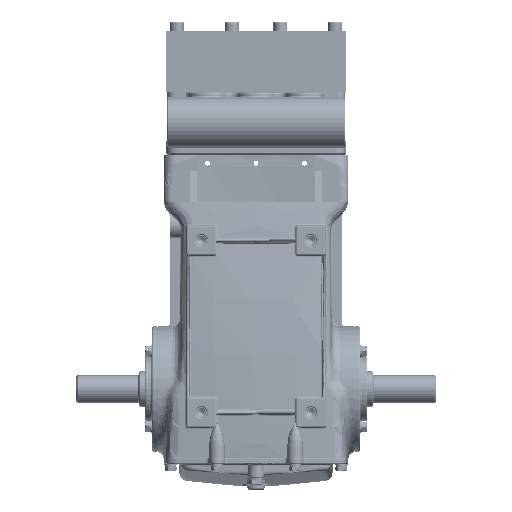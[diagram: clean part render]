
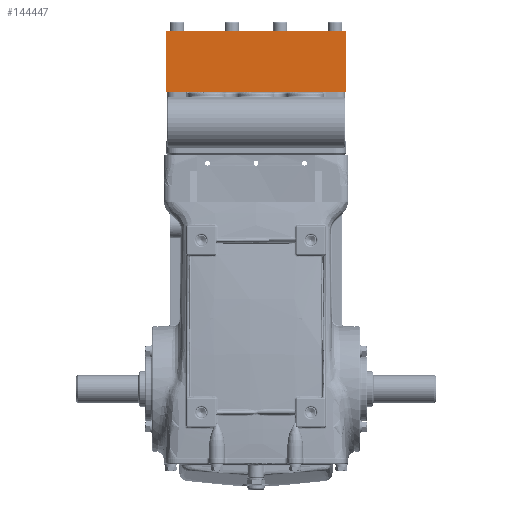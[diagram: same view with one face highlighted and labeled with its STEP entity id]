
A CAD part, front view. The second image highlights one B-rep face of the part: STEP entity #144447.
In plain terms, the highlighted planar face has unit normal (0, -1, 0).
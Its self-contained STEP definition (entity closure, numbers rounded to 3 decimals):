
#7578 = VERTEX_POINT ( 'NONE', #59951 ) ;
#7587 = VERTEX_POINT ( 'NONE', #59960 ) ;
#7643 = VERTEX_POINT ( 'NONE', #57588 ) ;
#20022 = FACE_OUTER_BOUND ( 'NONE', #27867, .T. ) ;
#20038 = AXIS2_PLACEMENT_3D ( 'NONE', #165394, #165395, #165396 ) ;
#27867 = EDGE_LOOP ( 'NONE', ( #84769, #84778, #84766, #84774, #84726, #84725, #84722, #84719, #84718, #84714 ) ) ;
#29304 = VERTEX_POINT ( 'NONE', #174169 ) ;
#43476 = VECTOR ( 'NONE', #186797, 1000. ) ;
#43480 = VECTOR ( 'NONE', #186800, 1000. ) ;
#43521 = VECTOR ( 'NONE', #186830, 1000. ) ;
#43534 = VECTOR ( 'NONE', #186839, 1000. ) ;
#43565 = VECTOR ( 'NONE', #186881, 1000. ) ;
#43578 = VECTOR ( 'NONE', #186909, 1000. ) ;
#43583 = VECTOR ( 'NONE', #186912, 1000. ) ;
#57588 = CARTESIAN_POINT ( 'NONE',  ( 115., -75.712, 378.95 ) ) ;
#59951 = CARTESIAN_POINT ( 'NONE',  ( -115., -75.712, 378.95 ) ) ;
#59960 = CARTESIAN_POINT ( 'NONE',  ( 56.834, -75.712, 378.95 ) ) ;
#84714 = ORIENTED_EDGE ( 'NONE', *, *, #166385, .T. ) ;
#84718 = ORIENTED_EDGE ( 'NONE', *, *, #166384, .F. ) ;
#84719 = ORIENTED_EDGE ( 'NONE', *, *, #94478, .F. ) ;
#84722 = ORIENTED_EDGE ( 'NONE', *, *, #166380, .F. ) ;
#84725 = ORIENTED_EDGE ( 'NONE', *, *, #94483, .F. ) ;
#84726 = ORIENTED_EDGE ( 'NONE', *, *, #166370, .F. ) ;
#84766 = ORIENTED_EDGE ( 'NONE', *, *, #166367, .F. ) ;
#84769 = ORIENTED_EDGE ( 'NONE', *, *, #166357, .T. ) ;
#84774 = ORIENTED_EDGE ( 'NONE', *, *, #94487, .F. ) ;
#84778 = ORIENTED_EDGE ( 'NONE', *, *, #166356, .F. ) ;
#86716 = VERTEX_POINT ( 'NONE', #116697 ) ;
#86776 = VERTEX_POINT ( 'NONE', #116731 ) ;
#86847 = VERTEX_POINT ( 'NONE', #116771 ) ;
#94478 = EDGE_CURVE ( 'NONE', #134559, #7587, #181748, .T. ) ;
#94483 = EDGE_CURVE ( 'NONE', #86776, #86847, #181754, .T. ) ;
#94487 = EDGE_CURVE ( 'NONE', #29304, #191582, #181760, .T. ) ;
#95141 = CARTESIAN_POINT ( 'NONE',  ( 115., -75.712, 456.95 ) ) ;
#95204 = CARTESIAN_POINT ( 'NONE',  ( 67.166, -75.712, 378.95 ) ) ;
#101211 = CARTESIAN_POINT ( 'NONE',  ( -67.166, -75.712, 378.95 ) ) ;
#116697 = CARTESIAN_POINT ( 'NONE',  ( -115., -75.712, 456.95 ) ) ;
#116731 = CARTESIAN_POINT ( 'NONE',  ( 5.166, -75.712, 378.95 ) ) ;
#116771 = CARTESIAN_POINT ( 'NONE',  ( -5.166, -75.712, 378.95 ) ) ;
#134525 = VERTEX_POINT ( 'NONE', #95141 ) ;
#134559 = VERTEX_POINT ( 'NONE', #95204 ) ;
#144447 = ADVANCED_FACE ( 'NONE', ( #20022 ), #165391, .F. ) ;
#165391 = PLANE ( 'NONE',  #20038 ) ;
#165394 = CARTESIAN_POINT ( 'NONE',  ( 115., -75.712, 378.95 ) ) ;
#165395 = DIRECTION ( 'NONE',  ( 0., 1., 0. ) ) ;
#165396 = DIRECTION ( 'NONE',  ( 1., 0., 0. ) ) ;
#166356 = EDGE_CURVE ( 'NONE', #7578, #86716, #186795, .T. ) ;
#166357 = EDGE_CURVE ( 'NONE', #134525, #86716, #186798, .T. ) ;
#166367 = EDGE_CURVE ( 'NONE', #191582, #7578, #186828, .T. ) ;
#166370 = EDGE_CURVE ( 'NONE', #86847, #29304, #186837, .T. ) ;
#166380 = EDGE_CURVE ( 'NONE', #7587, #86776, #186879, .T. ) ;
#166384 = EDGE_CURVE ( 'NONE', #7643, #134559, #186907, .T. ) ;
#166385 = EDGE_CURVE ( 'NONE', #7643, #134525, #186910, .T. ) ;
#174169 = CARTESIAN_POINT ( 'NONE',  ( -56.834, -75.712, 378.95 ) ) ;
#181748 = LINE ( 'NONE', #181749, #211569 ) ;
#181749 = CARTESIAN_POINT ( 'NONE',  ( 115., -75.712, 378.95 ) ) ;
#181750 = DIRECTION ( 'NONE',  ( -1., 0., 0. ) ) ;
#181754 = LINE ( 'NONE', #181755, #211571 ) ;
#181755 = CARTESIAN_POINT ( 'NONE',  ( 115., -75.712, 378.95 ) ) ;
#181756 = DIRECTION ( 'NONE',  ( -1., 0., 0. ) ) ;
#181760 = LINE ( 'NONE', #181761, #211573 ) ;
#181761 = CARTESIAN_POINT ( 'NONE',  ( 115., -75.712, 378.95 ) ) ;
#181762 = DIRECTION ( 'NONE',  ( -1., 0., 0. ) ) ;
#186795 = LINE ( 'NONE', #186796, #43476 ) ;
#186796 = CARTESIAN_POINT ( 'NONE',  ( -115., -75.712, 378.95 ) ) ;
#186797 = DIRECTION ( 'NONE',  ( 0., 0., 1. ) ) ;
#186798 = LINE ( 'NONE', #186799, #43480 ) ;
#186799 = CARTESIAN_POINT ( 'NONE',  ( 115., -75.712, 456.95 ) ) ;
#186800 = DIRECTION ( 'NONE',  ( -1., 0., 0. ) ) ;
#186828 = LINE ( 'NONE', #186829, #43521 ) ;
#186829 = CARTESIAN_POINT ( 'NONE',  ( 115., -75.712, 378.95 ) ) ;
#186830 = DIRECTION ( 'NONE',  ( -1., 0., 0. ) ) ;
#186837 = LINE ( 'NONE', #186838, #43534 ) ;
#186838 = CARTESIAN_POINT ( 'NONE',  ( 115., -75.712, 378.95 ) ) ;
#186839 = DIRECTION ( 'NONE',  ( -1., 0., 0. ) ) ;
#186879 = LINE ( 'NONE', #186880, #43565 ) ;
#186880 = CARTESIAN_POINT ( 'NONE',  ( 115., -75.712, 378.95 ) ) ;
#186881 = DIRECTION ( 'NONE',  ( -1., 0., 0. ) ) ;
#186907 = LINE ( 'NONE', #186908, #43578 ) ;
#186908 = CARTESIAN_POINT ( 'NONE',  ( 115., -75.712, 378.95 ) ) ;
#186909 = DIRECTION ( 'NONE',  ( -1., 0., 0. ) ) ;
#186910 = LINE ( 'NONE', #186911, #43583 ) ;
#186911 = CARTESIAN_POINT ( 'NONE',  ( 115., -75.712, 378.95 ) ) ;
#186912 = DIRECTION ( 'NONE',  ( 0., 0., 1. ) ) ;
#191582 = VERTEX_POINT ( 'NONE', #101211 ) ;
#211569 = VECTOR ( 'NONE', #181750, 1000. ) ;
#211571 = VECTOR ( 'NONE', #181756, 1000. ) ;
#211573 = VECTOR ( 'NONE', #181762, 1000. ) ;
